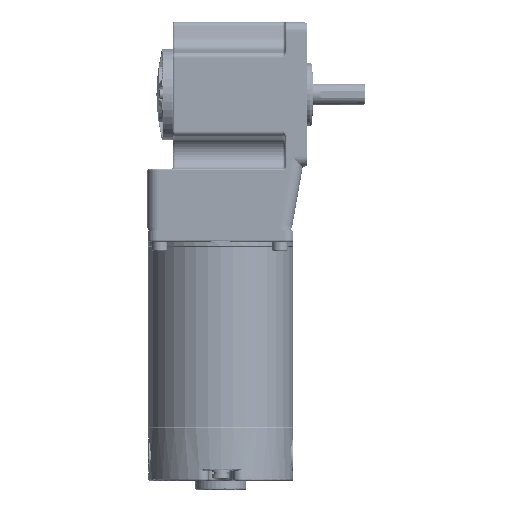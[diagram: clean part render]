
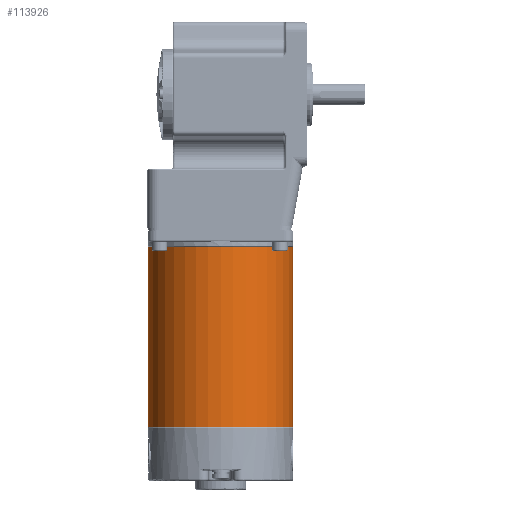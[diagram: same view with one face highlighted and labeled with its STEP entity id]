
A CAD part, front view. The second image highlights one B-rep face of the part: STEP entity #113926.
In plain terms, the highlighted cylindrical face has radius 40 mm (diameter 80 mm), a partial arc.
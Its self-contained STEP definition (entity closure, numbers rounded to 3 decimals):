
#9965 = VECTOR ( 'NONE', #11239, 1000. ) ;
#11239 = DIRECTION ( 'NONE',  ( 0., -1., 0. ) ) ;
#13797 = VECTOR ( 'NONE', #25193, 1000. ) ;
#14537 = EDGE_CURVE ( 'NONE', #51578, #115357, #79946, .T. ) ;
#19388 = CIRCLE ( 'NONE', #43663, 40. ) ;
#21813 = CYLINDRICAL_SURFACE ( 'NONE', #108237, 40. ) ;
#21846 = LINE ( 'NONE', #147120, #9965 ) ;
#25193 = DIRECTION ( 'NONE',  ( 0., -1., 0. ) ) ;
#33206 = CARTESIAN_POINT ( 'NONE',  ( 47.192, 99., -3.62 ) ) ;
#36602 = CARTESIAN_POINT ( 'NONE',  ( 47.192, 99., 36.38 ) ) ;
#37729 = EDGE_LOOP ( 'NONE', ( #39274, #39497, #138207, #133733 ) ) ;
#39274 = ORIENTED_EDGE ( 'NONE', *, *, #14537, .F. ) ;
#39497 = ORIENTED_EDGE ( 'NONE', *, *, #42326, .T. ) ;
#42326 = EDGE_CURVE ( 'NONE', #51578, #96826, #118403, .T. ) ;
#43663 = AXIS2_PLACEMENT_3D ( 'NONE', #121612, #122360, #54811 ) ;
#51578 = VERTEX_POINT ( 'NONE', #127091 ) ;
#54811 = DIRECTION ( 'NONE',  ( 0., 0., -1. ) ) ;
#66607 = DIRECTION ( 'NONE',  ( 0., 0., -1. ) ) ;
#67351 = DIRECTION ( 'NONE',  ( 0., -1., 0. ) ) ;
#71866 = CARTESIAN_POINT ( 'NONE',  ( 47.192, 99., -43.62 ) ) ;
#77839 = CARTESIAN_POINT ( 'NONE',  ( 47.192, 0., 36.38 ) ) ;
#78453 = EDGE_CURVE ( 'NONE', #96826, #139902, #21846, .T. ) ;
#79946 = LINE ( 'NONE', #36602, #13797 ) ;
#88998 = DIRECTION ( 'NONE',  ( 0., 0., -1. ) ) ;
#92404 = FACE_OUTER_BOUND ( 'NONE', #37729, .T. ) ;
#96826 = VERTEX_POINT ( 'NONE', #71866 ) ;
#103736 = CARTESIAN_POINT ( 'NONE',  ( 47.192, 0., -43.62 ) ) ;
#108237 = AXIS2_PLACEMENT_3D ( 'NONE', #33206, #67351, #66607 ) ;
#108763 = DIRECTION ( 'NONE',  ( 0., -1., 0. ) ) ;
#113926 = ADVANCED_FACE ( 'NONE', ( #92404 ), #21813, .T. ) ;
#115357 = VERTEX_POINT ( 'NONE', #77839 ) ;
#118403 = CIRCLE ( 'NONE', #125775, 40. ) ;
#121612 = CARTESIAN_POINT ( 'NONE',  ( 47.192, 0., -3.62 ) ) ;
#122360 = DIRECTION ( 'NONE',  ( 0., 1., 0. ) ) ;
#125775 = AXIS2_PLACEMENT_3D ( 'NONE', #133006, #108763, #88998 ) ;
#127091 = CARTESIAN_POINT ( 'NONE',  ( 47.192, 99., 36.38 ) ) ;
#133006 = CARTESIAN_POINT ( 'NONE',  ( 47.192, 99., -3.62 ) ) ;
#133733 = ORIENTED_EDGE ( 'NONE', *, *, #139242, .T. ) ;
#138207 = ORIENTED_EDGE ( 'NONE', *, *, #78453, .T. ) ;
#139242 = EDGE_CURVE ( 'NONE', #139902, #115357, #19388, .T. ) ;
#139902 = VERTEX_POINT ( 'NONE', #103736 ) ;
#147120 = CARTESIAN_POINT ( 'NONE',  ( 47.192, 99., -43.62 ) ) ;
